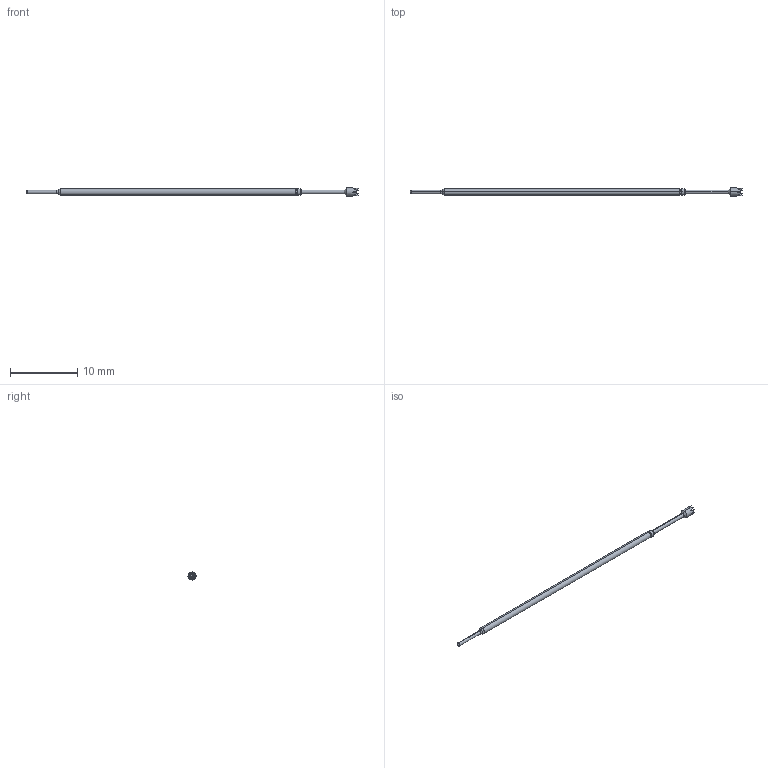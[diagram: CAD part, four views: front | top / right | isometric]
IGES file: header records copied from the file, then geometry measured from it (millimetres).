
Start section: SolidWorks IGES file using analytic representation for surfaces
Global section: file name: C:\Documents and Settings\mrumschlag\Desktop\changes\new\test\Z.IGS; native system: SolidWorks 2011; preprocessor: SolidWorks 2011; author: mrumschlag; date: 110630.142313; units: inch
Bounding box: 49.28 x 1.19 x 1.19 mm (x, y, z)
Surface area: 139.1 mm2 (no closed solid volume)
Topology: 0 solids, 0 shells, 43 faces, 218 edges, 216 vertices
Faces by surface type: bspline 25, revolution 18
